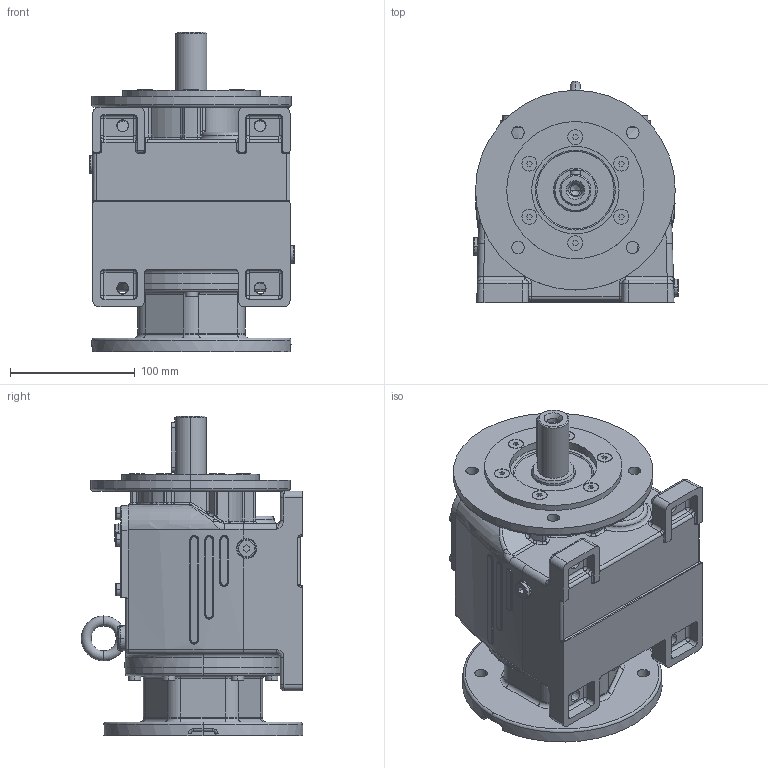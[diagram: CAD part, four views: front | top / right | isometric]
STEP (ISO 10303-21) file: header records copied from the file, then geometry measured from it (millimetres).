
FILE_DESCRIPTION (( 'STEP AP214' ), '1' );
FILE_NAME ('MTC32A-90-130+VP.STEP', '2006-05-04T05:00:04', ( '' ), ( '' ), 'SwSTEP 2.0', 'SolidWorks 2004146', '' );
FILE_SCHEMA (( 'AUTOMOTIVE_DESIGN' ));
Length unit declared in the file: millimetre
Products named in the file (6): pøíruba130 d72 MRT80a_Výchozí; Skrin MTC3_A_MTC32A_AP90; D6912_Šroub DIN 6912 - M6x20; Výst_pøíruba MTC_A_MTC3_A; MTC32A-90-130+VP; D7991_Šroub DIN 7991 - M6 x 25
Assembly tree (15 placements, depth 2):
  MTC32A-90-130+VP
    Skrin MTC3_A_MTC32A_AP90
    D7991_Šroub DIN 7991 - M6 x 25  x6
    D6912_Šroub DIN 6912 - M6x20  x6
    Výst_pøíruba MTC_A_MTC3_A
    pøíruba130 d72 MRT80a_Výchozí
Bounding box: 164 x 177.5 x 256 mm (x, y, z)
Volume: 3257189.7 mm3; surface area: 268669.9 mm2
Topology: 15 solids, 15 shells, 1669 faces, 3846 edges, 2215 vertices
Faces by surface type: cylinder 482, plane 458, torus 318, cone 199, bspline 173, sphere 39
Entity records: 142869 total; most frequent: CARTESIAN_POINT 107891, DIRECTION 6851, ORIENTED_EDGE 6448, EDGE_CURVE 3224, AXIS2_PLACEMENT_3D 2806, VERTEX_POINT 1927, CIRCLE 1572, EDGE_LOOP 1525
